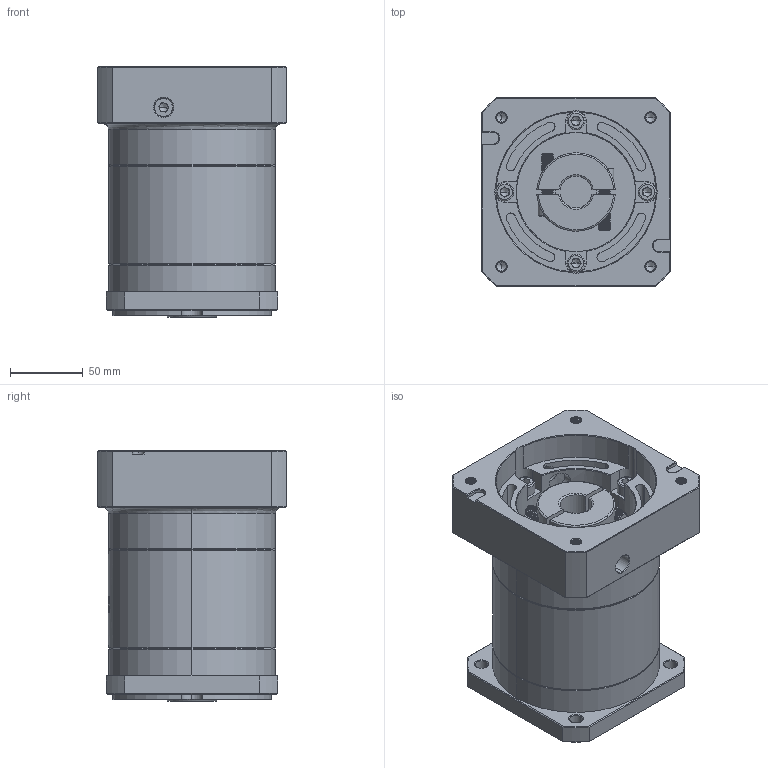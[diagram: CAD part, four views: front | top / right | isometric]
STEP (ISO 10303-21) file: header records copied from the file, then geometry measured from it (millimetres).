
FILE_DESCRIPTION (( 'STEP AP214' ), '1' );
FILE_NAME ('ZF120A-K25-L2-P2-22-110-145-M8.step', '2023-08-27T04:51:26', ( '' ), ( '' ), 'SwSTEP 2.0', 'SolidWorks 2016', '' );
FILE_SCHEMA (( 'AUTOMOTIVE_DESIGN' ));
Length unit declared in the file: millimetre
Products named in the file (1): ZF120A-K25-L2-P2-22-110-145-M8
Bounding box: 130 x 130 x 172.5 mm (x, y, z)
Volume: 1704550.8 mm3; surface area: 190688.6 mm2
Topology: 6 solids, 6 shells, 2220 faces, 5936 edges, 3815 vertices
Faces by surface type: plane 1053, cylinder 416, bspline 412, cone 321, torus 18
Entity records: 120903 total; most frequent: CARTESIAN_POINT 46285, ORIENTED_EDGE 11816, DIRECTION 8628, EDGE_CURVE 5908, VERTEX_POINT 3815, VECTOR 3120, LINE 3120, AXIS2_PLACEMENT_3D 2754
